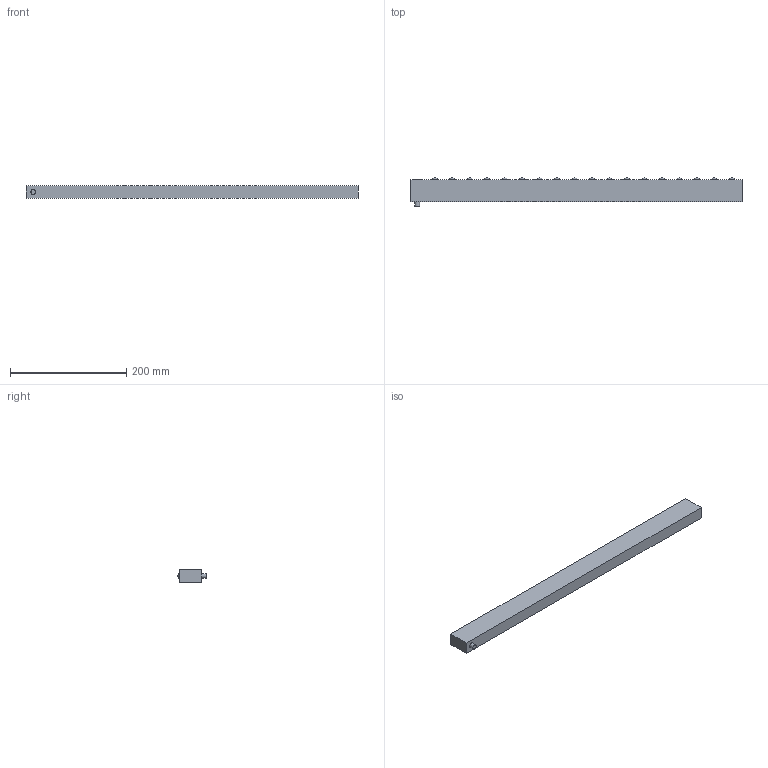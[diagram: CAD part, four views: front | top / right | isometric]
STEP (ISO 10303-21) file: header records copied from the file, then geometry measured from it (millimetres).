
FILE_DESCRIPTION(/* description */ (''),/* implementation_level */ '2;1');
FILE_NAME(/* name */ 'V:\Shrinkwrap\EMB\EMB - SHRINKWRAP\EMB22\EMB22-18_Shrinkwrap_1.stp',/* time_stamp */ '2022-08-12T10:51:08+02:00',/* author */ ('cw'),/* organization */ (''),/* preprocessor_version */ 'ST-DEVELOPER v17',/* originating_system */ 'Autodesk Inventor 2019',/* authorisation */ '');
FILE_SCHEMA (('AUTOMOTIVE_DESIGN { 1 0 10303 214 3 1 1 }'));
Length unit declared in the file: millimetre
Products named in the file (1): EMB22-18_Shrinkwrap_1
Bounding box: 570 x 48.46 x 21.8 mm (x, y, z)
Volume: 470459.3 mm3; surface area: 72576.1 mm2
Topology: 1 solids, 1 shells, 32 faces, 46 edges, 40 vertices
Faces by surface type: sphere 18, plane 10, cylinder 4
Full cylindrical faces by diameter (mm): 8 x1, 9 x1, 13 x1, 14 x1
Entity records: 826 total; most frequent: DIRECTION 138, CARTESIAN_POINT 117, ORIENTED_EDGE 88, AXIS2_PLACEMENT_3D 61, EDGE_LOOP 54, EDGE_CURVE 44, VERTEX_POINT 36, STYLED_ITEM 35
